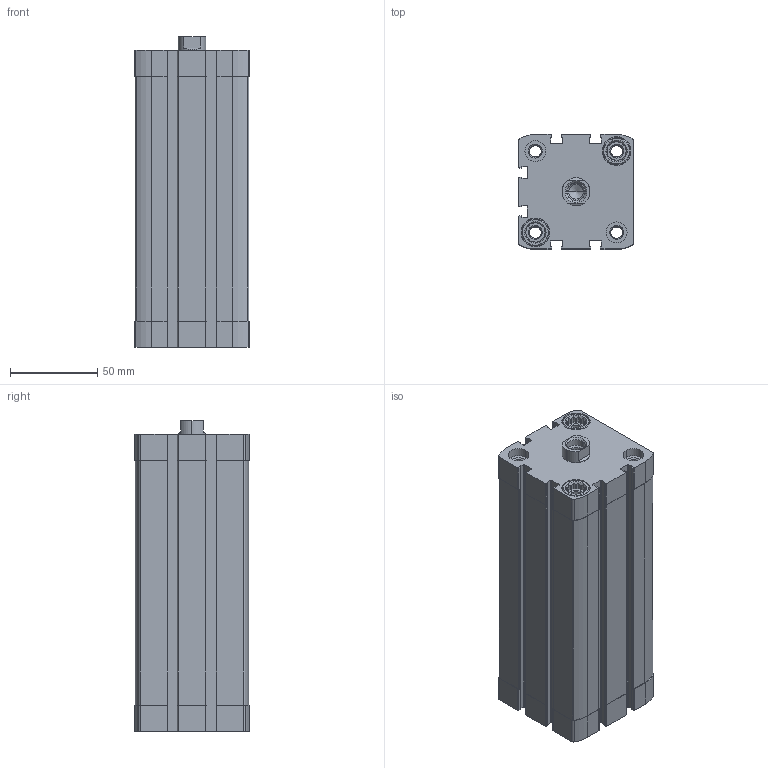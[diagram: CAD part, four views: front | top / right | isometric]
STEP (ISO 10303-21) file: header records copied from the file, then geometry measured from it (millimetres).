
FILE_DESCRIPTION (( 'STEP AP203' ), '1' );
FILE_NAME ('CCN50-125F.STEP', '2017-04-03T16:00:34', ( '' ), ( '' ), 'SwSTEP 2.0', 'SolidWorks 2016', '' );
FILE_SCHEMA (( 'CONFIG_CONTROL_DESIGN' ));
Length unit declared in the file: millimetre
Products named in the file (3): CCN-125---(Z); CCN-125_(KS); CCN50-125F
Assembly tree (2 placements, depth 2):
  CCN50-125F
    CCN-125---(Z)
    CCN-125_(KS)
Bounding box: 65.5 x 65.5 x 177.7 mm (x, y, z)
Volume: 432321.6 mm3; surface area: 121465.1 mm2
Topology: 2 solids, 2 shells, 471 faces, 1272 edges, 835 vertices
Faces by surface type: plane 219, cylinder 210, cone 42
Entity records: 15289 total; most frequent: CARTESIAN_POINT 2875, DIRECTION 2592, ORIENTED_EDGE 2540, EDGE_CURVE 1270, AXIS2_PLACEMENT_3D 944, VERTEX_POINT 835, VECTOR 704, LINE 704
